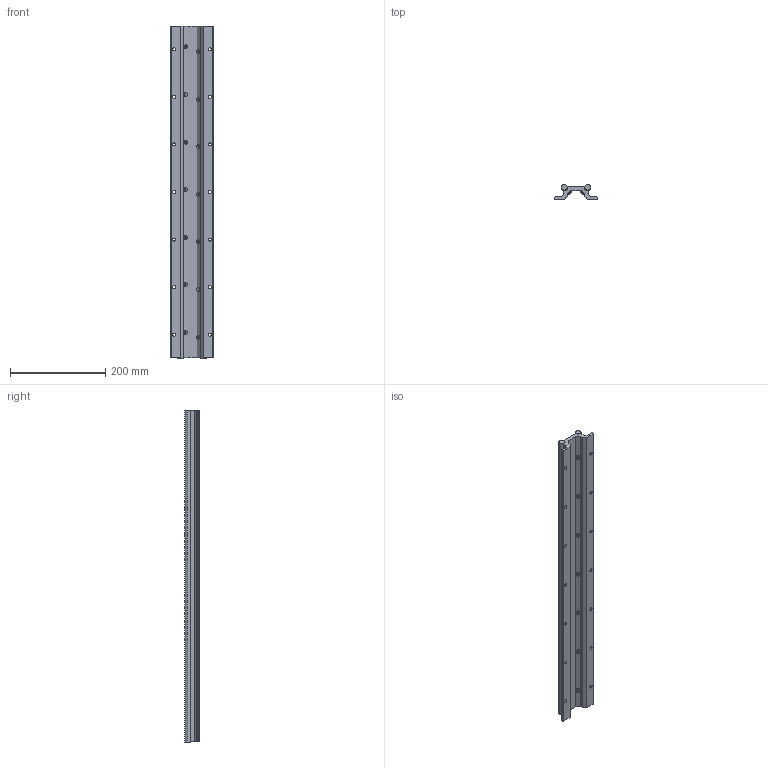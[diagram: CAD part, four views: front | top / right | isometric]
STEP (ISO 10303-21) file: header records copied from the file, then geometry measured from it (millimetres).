
FILE_DESCRIPTION (( 'STEP AP203' ), '1' );
FILE_NAME ('LF 3_-_LF 2 698 mm lang.step', '2005-06-03T06:31:14', ( ' ' ), ( ' ' ), 'SwSTEP 2.0', 'SolidWorks 2004231', '' );
FILE_SCHEMA (( 'CONFIG_CONTROL_DESIGN' ));
Length unit declared in the file: millimetre
Products named in the file (1): LF 3_-_LF 2  698 mm lang
Bounding box: 90 x 31 x 698 mm (x, y, z)
Volume: 729834.5 mm3; surface area: 226213 mm2
Topology: 1 solids, 1 shells, 355 faces, 909 edges, 552 vertices
Faces by surface type: cylinder 151, plane 148, torus 28, cone 28
Entity records: 10884 total; most frequent: CARTESIAN_POINT 2699, ORIENTED_EDGE 1762, DIRECTION 1567, EDGE_CURVE 881, VERTEX_POINT 552, AXIS2_PLACEMENT_3D 540, LINE 487, VECTOR 487
